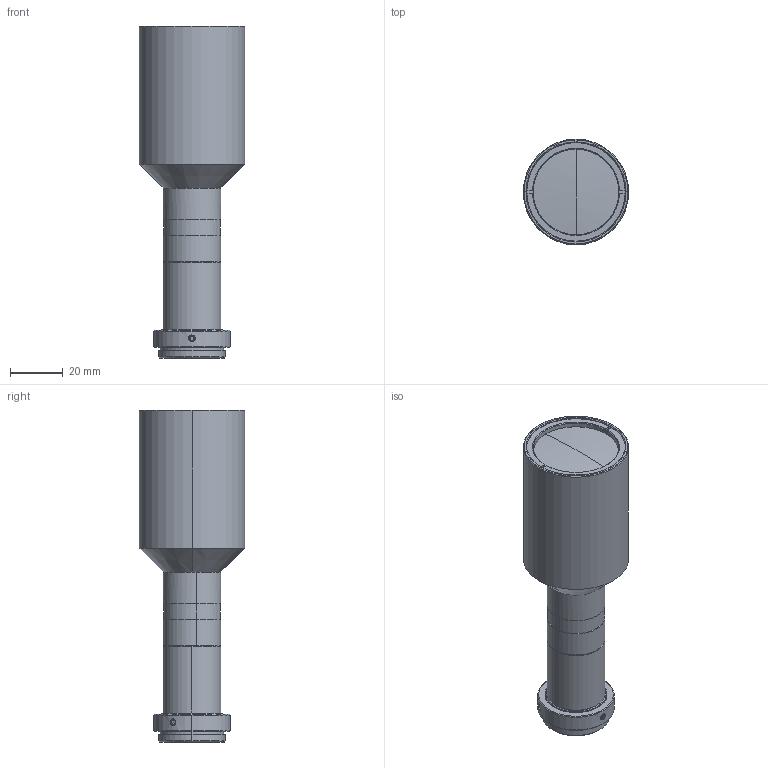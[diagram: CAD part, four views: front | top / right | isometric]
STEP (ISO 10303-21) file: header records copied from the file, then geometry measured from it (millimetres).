
FILE_DESCRIPTION (( 'STEP AP214' ), '1' );
FILE_NAME ('MML1-HR244.STEP', '2026-02-18T04:22:50', ( '' ), ( '' ), 'SwSTEP 2.0', 'SolidWorks 2025', '' );
FILE_SCHEMA (( 'AUTOMOTIVE_DESIGN' ));
Length unit declared in the file: millimetre
Products named in the file (1): MML1-HR244
Bounding box: 40 x 40 x 126.04 mm (x, y, z)
Volume: 92345.1 mm3; surface area: 16494.7 mm2
Topology: 1 solids, 1 shells, 172 faces, 426 edges, 274 vertices
Faces by surface type: cone 63, plane 60, cylinder 45, sphere 4
Entity records: 5349 total; most frequent: CARTESIAN_POINT 1164, DIRECTION 904, ORIENTED_EDGE 852, EDGE_CURVE 426, AXIS2_PLACEMENT_3D 352, VERTEX_POINT 274, VECTOR 200, LINE 200
